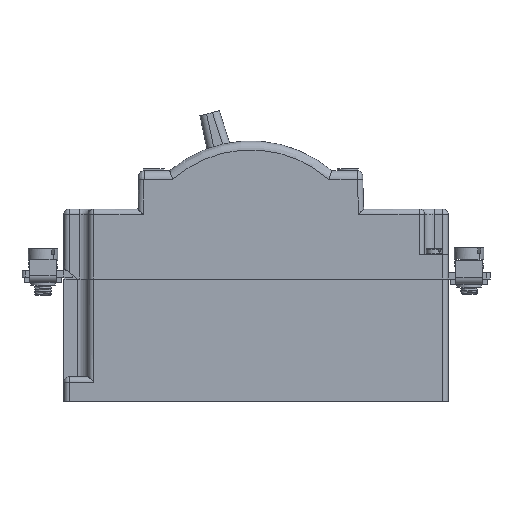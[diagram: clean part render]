
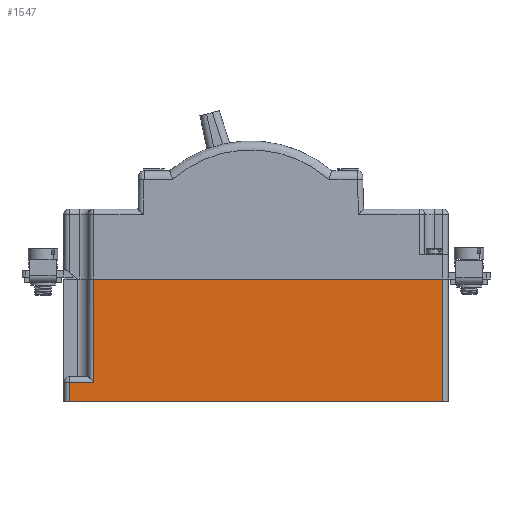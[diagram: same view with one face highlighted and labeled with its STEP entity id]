
A CAD part, left-side view. The second image highlights one B-rep face of the part: STEP entity #1547.
In plain terms, the highlighted planar face has unit normal (-1, 0, 0).
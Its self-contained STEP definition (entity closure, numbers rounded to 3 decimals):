
#1542 = VERTEX_POINT ( 'NONE', #37938 ) ;
#1546 = EDGE_CURVE ( 'NONE', #1542, #8499, #37937, .T. ) ;
#1547 = ADVANCED_FACE ( 'NONE', ( #37933 ), #37932, .F. ) ;
#1548 = EDGE_LOOP ( 'NONE', ( #1549, #1552, #1611, #1613, #1614, #1615 ) ) ;
#1549 = ORIENTED_EDGE ( 'NONE', *, *, #1550, .T. ) ;
#1550 = EDGE_CURVE ( 'NONE', #8509, #1551, #37927, .T. ) ;
#1551 = VERTEX_POINT ( 'NONE', #37923 ) ;
#1552 = ORIENTED_EDGE ( 'NONE', *, *, #1553, .T. ) ;
#1553 = EDGE_CURVE ( 'NONE', #1551, #1554, #37922, .T. ) ;
#1554 = VERTEX_POINT ( 'NONE', #37918 ) ;
#1611 = ORIENTED_EDGE ( 'NONE', *, *, #1612, .F. ) ;
#1612 = EDGE_CURVE ( 'NONE', #1542, #1554, #38009, .T. ) ;
#1613 = ORIENTED_EDGE ( 'NONE', *, *, #1546, .T. ) ;
#1614 = ORIENTED_EDGE ( 'NONE', *, *, #8505, .T. ) ;
#1615 = ORIENTED_EDGE ( 'NONE', *, *, #8512, .T. ) ;
#8499 = VERTEX_POINT ( 'NONE', #24958 ) ;
#8505 = EDGE_CURVE ( 'NONE', #8499, #8513, #25002, .T. ) ;
#8509 = VERTEX_POINT ( 'NONE', #24992 ) ;
#8512 = EDGE_CURVE ( 'NONE', #8513, #8509, #24990, .T. ) ;
#8513 = VERTEX_POINT ( 'NONE', #24986 ) ;
#24958 = CARTESIAN_POINT ( 'NONE',  ( -68.835, 63.625, -12. ) ) ;
#24986 = CARTESIAN_POINT ( 'NONE',  ( -68.835, 70.625, -12. ) ) ;
#24987 = DIRECTION ( 'NONE',  ( 0., 0., -1. ) ) ;
#24988 = VECTOR ( 'NONE', #24987, 1000. ) ;
#24989 = CARTESIAN_POINT ( 'NONE',  ( -68.835, 70.625, 17.5 ) ) ;
#24990 = LINE ( 'NONE', #24989, #24988 ) ;
#24992 = CARTESIAN_POINT ( 'NONE',  ( -68.835, 70.625, -17.5 ) ) ;
#24999 = DIRECTION ( 'NONE',  ( 0., 1., 0. ) ) ;
#25000 = VECTOR ( 'NONE', #24999, 1000. ) ;
#25001 = CARTESIAN_POINT ( 'NONE',  ( -68.835, 72.125, -12. ) ) ;
#25002 = LINE ( 'NONE', #25001, #25000 ) ;
#37918 = CARTESIAN_POINT ( 'NONE',  ( -68.835, -36.375, 17.5 ) ) ;
#37919 = DIRECTION ( 'NONE',  ( 0., 0., 1. ) ) ;
#37920 = VECTOR ( 'NONE', #37919, 1000. ) ;
#37921 = CARTESIAN_POINT ( 'NONE',  ( -68.835, -36.375, 17.5 ) ) ;
#37922 = LINE ( 'NONE', #37921, #37920 ) ;
#37923 = CARTESIAN_POINT ( 'NONE',  ( -68.835, -36.375, -17.5 ) ) ;
#37924 = DIRECTION ( 'NONE',  ( 0., -1., 0. ) ) ;
#37925 = VECTOR ( 'NONE', #37924, 1000. ) ;
#37926 = CARTESIAN_POINT ( 'NONE',  ( -68.835, 72.125, -17.5 ) ) ;
#37927 = LINE ( 'NONE', #37926, #37925 ) ;
#37928 = DIRECTION ( 'NONE',  ( 0., 1., 0. ) ) ;
#37929 = DIRECTION ( 'NONE',  ( 1., 0., 0. ) ) ;
#37930 = CARTESIAN_POINT ( 'NONE',  ( -68.835, 72.125, 17.5 ) ) ;
#37931 = AXIS2_PLACEMENT_3D ( 'NONE', #37930, #37929, #37928 ) ;
#37932 = PLANE ( 'NONE',  #37931 ) ;
#37933 = FACE_OUTER_BOUND ( 'NONE', #1548, .T. ) ;
#37934 = DIRECTION ( 'NONE',  ( 0., 0., -1. ) ) ;
#37935 = VECTOR ( 'NONE', #37934, 1000. ) ;
#37936 = CARTESIAN_POINT ( 'NONE',  ( -68.835, 63.625, 17.5 ) ) ;
#37937 = LINE ( 'NONE', #37936, #37935 ) ;
#37938 = CARTESIAN_POINT ( 'NONE',  ( -68.835, 63.625, 17.5 ) ) ;
#38006 = DIRECTION ( 'NONE',  ( 0., -1., 0. ) ) ;
#38007 = VECTOR ( 'NONE', #38006, 1000. ) ;
#38008 = CARTESIAN_POINT ( 'NONE',  ( -68.835, 72.125, 17.5 ) ) ;
#38009 = LINE ( 'NONE', #38008, #38007 ) ;
